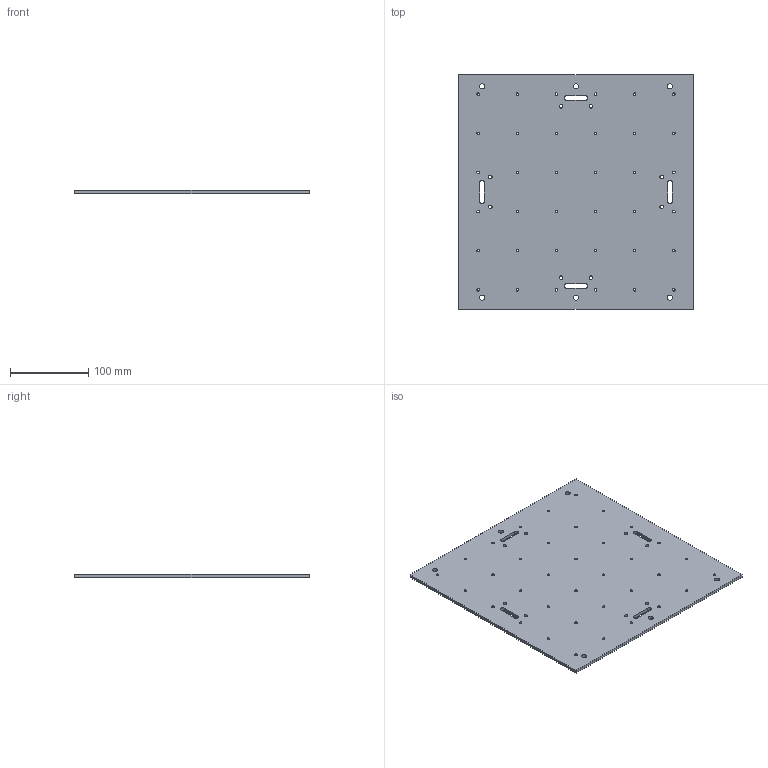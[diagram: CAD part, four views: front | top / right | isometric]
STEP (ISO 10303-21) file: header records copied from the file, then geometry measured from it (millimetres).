
FILE_DESCRIPTION(('FreeCAD Model'),'2;1');
FILE_NAME('Open CASCADE Shape Model','2026-09-21T20:46:49',('FreeCAD'),( 'FreeCAD'),'Open CASCADE STEP processor 7.8','FreeCAD','Unknown');
FILE_SCHEMA(('AUTOMOTIVE_DESIGN { 1 0 10303 214 1 1 1 1 }'));
Length unit declared in the file: millimetre
Products named in the file (1): Open CASCADE STEP translator 7.8 2
Bounding box: 300 x 300 x 4 mm (x, y, z)
Volume: 354682 mm3; surface area: 185653.5 mm2
Topology: 1 solids, 1 shells, 72 faces, 218 edges, 148 vertices
Faces by surface type: cylinder 58, plane 14
Full cylindrical faces by diameter (mm): 3.3 x36, 4.5 x8, 6.6 x6
Entity records: 2756 total; most frequent: DIRECTION 488, CARTESIAN_POINT 439, ORIENTED_EDGE 436, EDGE_CURVE 218, AXIS2_PLACEMENT_3D 197, FACE_BOUND 180, EDGE_LOOP 180, VERTEX_POINT 148
